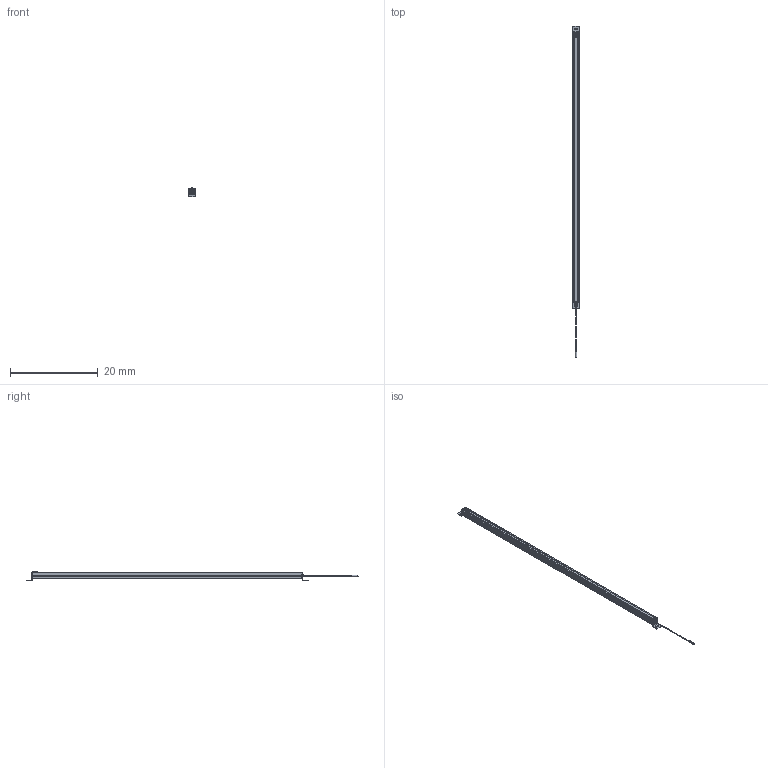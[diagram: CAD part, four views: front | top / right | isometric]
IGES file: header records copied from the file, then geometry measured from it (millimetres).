
Start section:  Autodesk DirectConnect version 7.0.27.0 ---- IGES version 5.3
Global section: file name: C:\ACADFILES\SS_PYLONS\CUSTOMER_FILES\SS-60-PYLON_3D_L.iges; native system: Autodesk DirectConnect 7.0.27.0; preprocessor: 7.0.27.0; author: ENGINEERMAIN; organization: Unknown; date: 20150810.125736; units: millimetre
Bounding box: 1.46 x 75.52 x 2.11 mm (x, y, z)
Surface area: 910.8 mm2 (no closed solid volume)
Topology: 0 solids, 0 shells, 475 faces, 2604 edges, 2623 vertices
Faces by surface type: bspline 475
